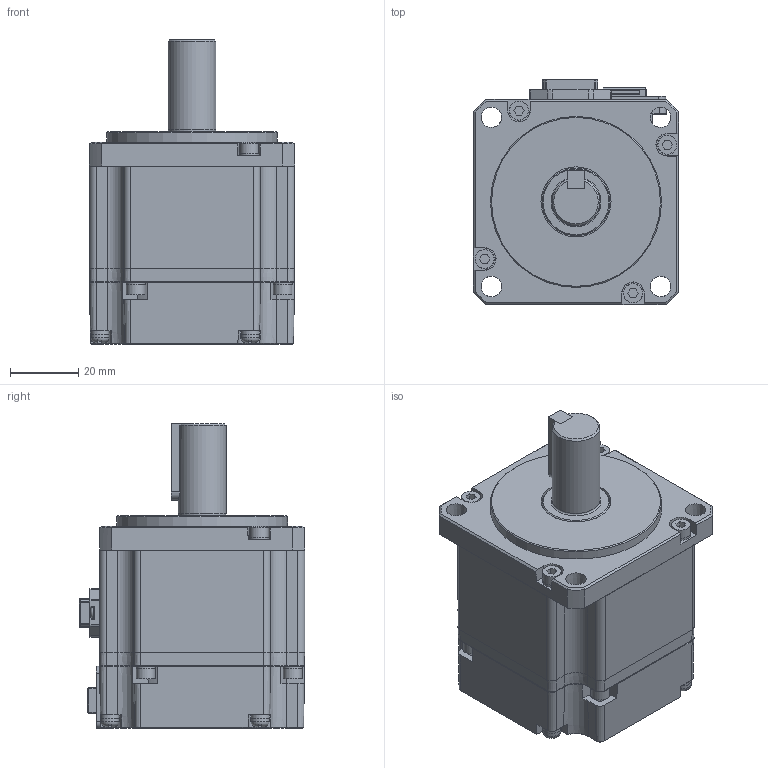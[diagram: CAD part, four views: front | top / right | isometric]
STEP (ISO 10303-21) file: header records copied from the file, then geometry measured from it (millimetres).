
FILE_DESCRIPTION (( 'STEP AP214' ), '1' );
FILE_NAME ('EM06GA001G01_Out Line(APM-EB01AM3K).STEP', '2022-11-04T03:02:43', ( '' ), ( '' ), 'SwSTEP 2.0', 'SolidWorks 2021', '' );
FILE_SCHEMA (( 'AUTOMOTIVE_DESIGN' ));
Length unit declared in the file: millimetre
Products named in the file (1): EM06GA001G01_Out Line(APM-EB01AM3K)
Bounding box: 60 x 65.9 x 89.2 mm (x, y, z)
Volume: 201006.2 mm3; surface area: 51901.2 mm2
Topology: 34 solids, 34 shells, 1416 faces, 3528 edges, 2249 vertices
Faces by surface type: plane 1034, cylinder 216, cone 103, torus 31, bspline 18, sphere 14
Full cylindrical faces by diameter (mm): 1.6 x10, 2 x2, 2.1 x2, 2.5 x12, 3 x16, 3.1 x8, 3.5 x4, 5.4 x8, 5.5 x8, 5.6 x8, 14 x1, 19.8 x1, 20.5 x1, 50 x1
Entity records: 57476 total; most frequent: CARTESIAN_POINT 8653, ORIENTED_EDGE 6724, DIRECTION 6473, EDGE_CURVE 3362, LINE 2503, VECTOR 2503, VERTEX_POINT 2210, AXIS2_PLACEMENT_3D 1985
